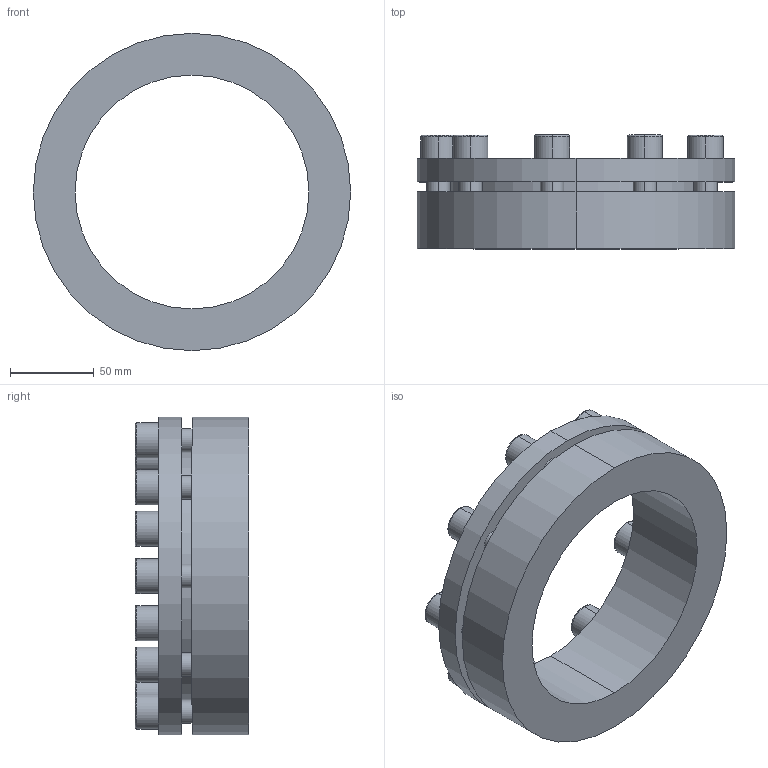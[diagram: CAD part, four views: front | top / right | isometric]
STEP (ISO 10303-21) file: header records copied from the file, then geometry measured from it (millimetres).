
FILE_DESCRIPTION (( 'STEP AP203' ), '1' );
FILE_NAME ('PL-H3 140-190.STEP', '2021-10-23T01:10:37', ( '' ), ( '' ), 'SwSTEP 2.0', 'SolidWorks 2018', '' );
FILE_SCHEMA (( 'CONFIG_CONTROL_DESIGN' ));
Length unit declared in the file: millimetre
Products named in the file (1): PL-H3 140-190
Bounding box: 190 x 68 x 190 mm (x, y, z)
Volume: 679674.1 mm3; surface area: 112787 mm2
Topology: 1 solids, 1 shells, 138 faces, 330 edges, 214 vertices
Faces by surface type: plane 76, cylinder 44, torus 18
Entity records: 4131 total; most frequent: DIRECTION 732, CARTESIAN_POINT 683, ORIENTED_EDGE 660, EDGE_CURVE 330, AXIS2_PLACEMENT_3D 263, VERTEX_POINT 214, VECTOR 206, LINE 206
